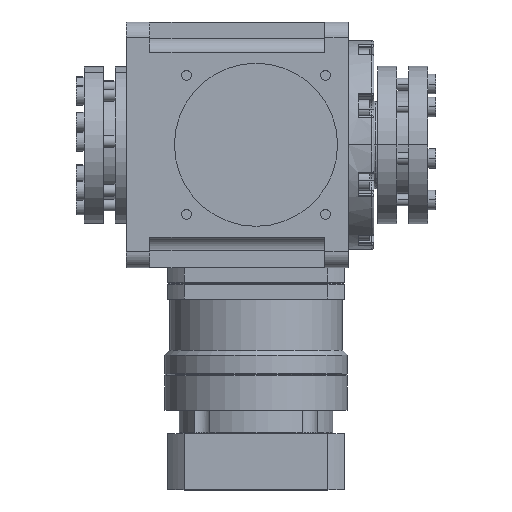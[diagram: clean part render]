
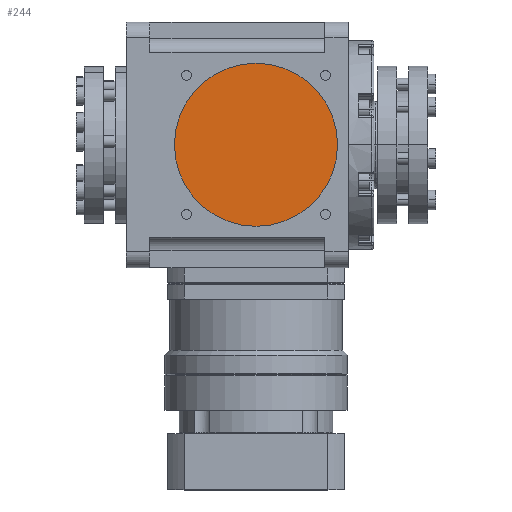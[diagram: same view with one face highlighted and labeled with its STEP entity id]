
A CAD part, top view. The second image highlights one B-rep face of the part: STEP entity #244.
In plain terms, the highlighted planar face has unit normal (0, 0, 1).
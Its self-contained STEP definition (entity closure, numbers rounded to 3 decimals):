
#244 = ADVANCED_FACE ( 'NONE', ( #18688 ), #5281, .T. ) ;
#757 = DIRECTION ( 'NONE',  ( -1., 0., 0. ) ) ;
#1826 = ORIENTED_EDGE ( 'NONE', *, *, #13894, .T. ) ;
#1890 = VERTEX_POINT ( 'NONE', #14868 ) ;
#2260 = EDGE_CURVE ( 'NONE', #9501, #1890, #5421, .T. ) ;
#5204 = AXIS2_PLACEMENT_3D ( 'NONE', #17254, #8249, #757 ) ;
#5281 = PLANE ( 'NONE',  #12111 ) ;
#5421 = CIRCLE ( 'NONE', #16121, 41.5 ) ;
#5489 = DIRECTION ( 'NONE',  ( -1., 0., 0. ) ) ;
#6866 = CARTESIAN_POINT ( 'NONE',  ( 19., 0., 58.5 ) ) ;
#7401 = CIRCLE ( 'NONE', #5204, 41.5 ) ;
#8241 = DIRECTION ( 'NONE',  ( 0., 0., 1. ) ) ;
#8249 = DIRECTION ( 'NONE',  ( 0., 0., 1. ) ) ;
#8271 = ORIENTED_EDGE ( 'NONE', *, *, #2260, .T. ) ;
#9501 = VERTEX_POINT ( 'NONE', #13850 ) ;
#12111 = AXIS2_PLACEMENT_3D ( 'NONE', #12965, #12577, #18889 ) ;
#12577 = DIRECTION ( 'NONE',  ( 0., 0., 1. ) ) ;
#12965 = CARTESIAN_POINT ( 'NONE',  ( 19., 0., 58.5 ) ) ;
#13850 = CARTESIAN_POINT ( 'NONE',  ( -22.5, 0., 58.5 ) ) ;
#13894 = EDGE_CURVE ( 'NONE', #1890, #9501, #7401, .T. ) ;
#14868 = CARTESIAN_POINT ( 'NONE',  ( 60.5, 0., 58.5 ) ) ;
#16121 = AXIS2_PLACEMENT_3D ( 'NONE', #6866, #8241, #5489 ) ;
#17254 = CARTESIAN_POINT ( 'NONE',  ( 19., 0., 58.5 ) ) ;
#18688 = FACE_OUTER_BOUND ( 'NONE', #19115, .T. ) ;
#18889 = DIRECTION ( 'NONE',  ( -1., 0., 0. ) ) ;
#19115 = EDGE_LOOP ( 'NONE', ( #1826, #8271 ) ) ;
